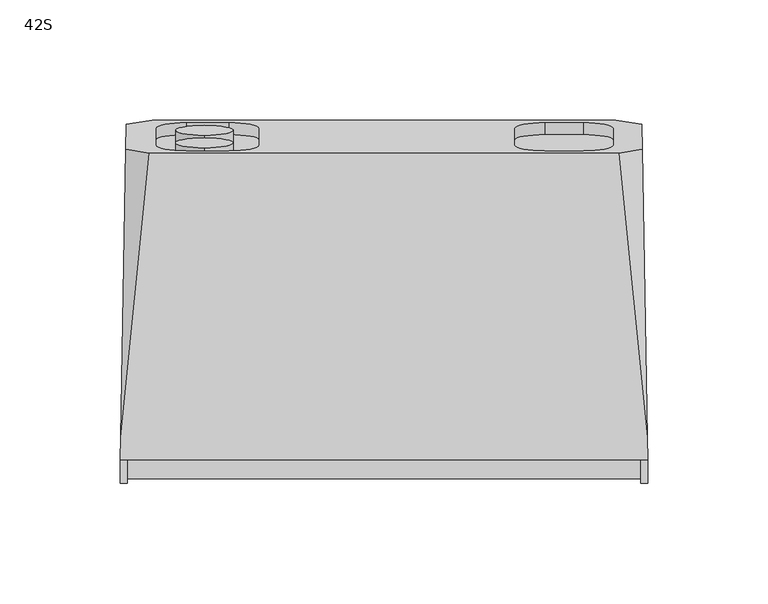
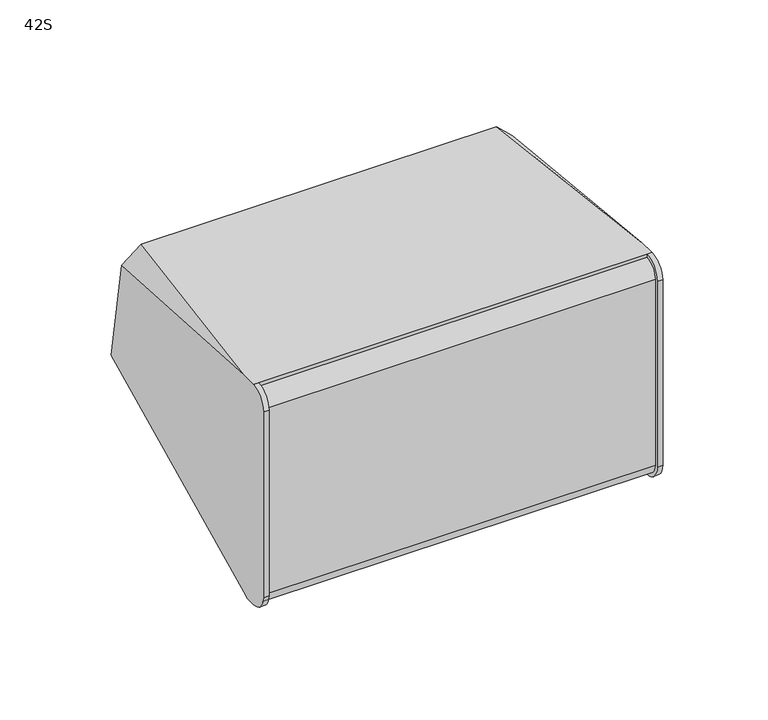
"""IFC4 building model written with IfcOpenShell, lengths in millimetres: proxy geometry, d&b xS-Series 42S Point Source : 42S."""

from ifc_helpers import new_model, si_unit, point, frame, frame_2d, origin, place, context, project, spatial, polyline, circle_curve, ellipse_curve, trimmed, segment, composite_curve, outline, extrude, source, transform, mapped, element, save
from ifc_brep_helpers import plane_surface, cylinder_surface, revolved_surface, advanced_brep


def proxy_42s_98b05bd8(model_context):
    return source(origin(), model_context, "Body", "SolidModel", [
        advanced_brep(
        [(107.0, -66.0, 64.0), (-107.0, -66.0, 64.0), (-107.0, -66.0, 62.0435242), (107.0, -66.0, 62.0435242), (-107.0, -73.9650952, 54.078429), (107.0, -73.9650952, 54.078429), (-107.0, -73.9650952, -54.0), (107.0, -73.9650952, -54.0), (-107.0, -65.9650952, -62.0), (107.0, -65.9650952, -62.0), (-107.0, -65.9650952, -64.0), (107.0, -65.9650952, -64.0), (-109.8273531, -65.9650952, -64.0), (-109.7253263, -60.0349048, -64.0), (109.7253263, -60.0349048, -64.0), (109.8273531, -65.9650952, -64.0), (109.8279536, -66.0, 64.0), (109.6679034, -56.6972655, 64.0), (97.8946622, 61.6262346, 64.0), (-97.8946622, 61.6262346, 64.0), (-109.6679034, -56.6972655, 64.0), (-109.8279536, -66.0, 64.0), (-96.5142171, 75.4999923, -14.6819894), (96.5142171, 75.4999923, -14.6819894), (109.6679034, -56.6972655, -62.7855103), (-109.6679034, -56.6972655, -62.7855103), (107.602215, 63.3685056, 54.1190905), (-107.602215, 63.3685056, 54.1190905), (-107.4240938, 73.7215924, -4.5961827), (107.4240938, 73.7215924, -4.5961827), (109.9986507, -75.921571, 54.078429), (109.9993995, -75.9650952, -54.0), (-109.9993995, -75.9650952, -54.0), (-109.9993995, -75.9650952, 54.078429), (107.0, -75.9650952, -54.0), (107.0, -75.9650952, 54.078429), (95.447753, 64.9457885, 45.1738745), (82.947753, 62.7751863, 57.4839714), (67.052247, 62.7751863, 57.4839714), (54.552247, 64.9457885, 45.1738745), (54.552247, 72.167034, 4.2201563), (67.052247, 74.3376362, -8.0899406), (82.947753, 74.3376362, -8.0899406), (95.447753, 72.167034, 4.2201563), (-52.1, 64.9457885, 45.1738745), (-64.6, 62.7751863, 57.4839714), (-82.4, 62.7751863, 57.4839714), (-94.9, 64.9457885, 45.1738745), (-94.9, 72.167034, 4.2201563), (-82.4, 74.3376362, -8.0899406), (-64.6, 74.3376362, -8.0899406), (-52.1, 72.167034, 4.2201563), (95.447753, 60.0217497, 44.3056336), (95.447753, 67.2429952, 3.3519154), (82.947753, 69.4135974, -8.9581815), (67.052247, 69.4135974, -8.9581815), (54.552247, 67.2429952, 3.3519154), (54.552247, 60.0217497, 44.3056336), (67.052247, 57.8511475, 56.6157306), (82.947753, 57.8511475, 56.6157306), (-52.1, 60.0217497, 44.3056336), (-52.1, 67.2429952, 3.3519154), (-64.6, 69.4135974, -8.9581815), (-82.4, 69.4135974, -8.9581815), (-94.9, 67.2429952, 3.3519154), (-94.9, 60.0217497, 44.3056336), (-82.4, 57.8511475, 56.6157306), (-64.6, 57.8511475, 56.6157306), (-107.0, -75.921571, 54.078429), (-107.0, -75.9650952, -54.0)],
        [
            (0, 1),
            (1, 2),
            (2, 3),
            (3, 0),
            (2, 4, circle_curve(frame((-107.0, -66.0, 54.078429), z_axis=(1.0, 0.0, 0.0), x_axis=(0.0, 0.0, 1.0)), 7.9650952)),
            (4, 5),
            (5, 3, circle_curve(frame((107.0, -66.0, 54.078429), z_axis=(-1.0, 0.0, 0.0), x_axis=(0.0, 0.0, 1.0)), 7.9650952)),
            (4, 6),
            (6, 7),
            (7, 5),
            (6, 8, circle_curve(frame((-107.0, -65.9650952, -54.0), z_axis=(1.0, 0.0, 0.0), x_axis=(0.0, 0.0, 1.0)), 8.0)),
            (8, 9),
            (9, 7, circle_curve(frame((107.0, -65.9650952, -54.0), z_axis=(-1.0, 0.0, 0.0), x_axis=(0.0, 0.0, 1.0)), 8.0)),
            (8, 10),
            (10, 11),
            (11, 9),
            (10, 12),
            (12, 13),
            (13, 14),
            (14, 15),
            (15, 11),
            (0, 16),
            (16, 17),
            (17, 18),
            (18, 19),
            (19, 20),
            (20, 21),
            (21, 1),
            (22, 23),
            (23, 24),
            (24, 14),
            (13, 25),
            (25, 22),
            (26, 18),
            (17, 26),
            (19, 27),
            (27, 20),
            (28, 22),
            (25, 28),
            (23, 29),
            (29, 24),
            (29, 26),
            (16, 30, ellipse_curve(frame((109.8279536, -66.0, 54.078429), z_axis=(0.9998520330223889, 0.017202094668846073, 0.0), x_axis=(0.01720209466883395, -0.999852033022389, 0.0)), 9.9230392, 9.921571)),
            (30, 31),
            (31, 15, ellipse_curve(frame((109.8273531, -65.9650952, -54.0), z_axis=(0.9998520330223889, 0.017202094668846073, 0.0), x_axis=(0.01720209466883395, -0.999852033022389, 0.0)), 10.0014799, 10.0)),
            (12, 32, ellipse_curve(frame((-109.8273531, -65.9650952, -54.0), z_axis=(-0.999852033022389, 0.017202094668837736, 0.0), x_axis=(0.017202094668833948, 0.999852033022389, 0.0)), 10.0014799, 10.0)),
            (32, 33),
            (33, 21, ellipse_curve(frame((-109.8279536, -66.0, 54.078429), z_axis=(-0.999852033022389, 0.017202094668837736, 0.0), x_axis=(0.017202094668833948, 0.999852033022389, 0.0)), 9.9230392, 9.921571)),
            (27, 28),
            (11, 34, circle_curve(frame((107.0, -65.9650952, -54.0), z_axis=(-1.0, 0.0, 0.0), x_axis=(0.0, 0.0, 1.0)), 10.0)),
            (34, 35),
            (35, 0, circle_curve(frame((107.0, -66.0, 54.078429), z_axis=(-1.0, 0.0, 0.0), x_axis=(0.0, 0.0, 1.0)), 9.921571)),
            (35, 30),
            (34, 31),
            (36, 37, circle_curve(frame((82.947753, 64.9457885, 45.1738745), z_axis=(0.0, -0.9848077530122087, -0.17364817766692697), x_axis=(0.0, 0.17364817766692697, -0.9848077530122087)), 12.5)),
            (37, 38),
            (38, 39, circle_curve(frame((67.052247, 64.9457885, 45.1738745), z_axis=(0.0, -0.9848077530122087, -0.17364817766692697), x_axis=(0.0, 0.17364817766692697, -0.9848077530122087)), 12.5)),
            (39, 40),
            (40, 41, circle_curve(frame((67.052247, 72.167034, 4.2201563), z_axis=(0.0, -0.9848077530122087, -0.17364817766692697), x_axis=(0.0, 0.17364817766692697, -0.9848077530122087)), 12.5)),
            (41, 42),
            (42, 43, circle_curve(frame((82.947753, 72.167034, 4.2201563), z_axis=(0.0, -0.9848077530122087, -0.17364817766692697), x_axis=(0.0, 0.17364817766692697, -0.9848077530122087)), 12.5)),
            (43, 36),
            (44, 45, circle_curve(frame((-64.6, 64.9457885, 45.1738745), z_axis=(0.0, -0.9848077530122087, -0.17364817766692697), x_axis=(0.0, 0.17364817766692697, -0.9848077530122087)), 12.5)),
            (45, 46),
            (46, 47, circle_curve(frame((-82.4, 64.9457885, 45.1738745), z_axis=(0.0, -0.9848077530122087, -0.17364817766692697), x_axis=(0.0, 0.17364817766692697, -0.9848077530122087)), 12.5)),
            (47, 48),
            (48, 49, circle_curve(frame((-82.4, 72.167034, 4.2201563), z_axis=(0.0, -0.9848077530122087, -0.17364817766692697), x_axis=(0.0, 0.17364817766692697, -0.9848077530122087)), 12.5)),
            (49, 50),
            (50, 51, circle_curve(frame((-64.6, 72.167034, 4.2201563), z_axis=(0.0, -0.9848077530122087, -0.17364817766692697), x_axis=(0.0, 0.17364817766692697, -0.9848077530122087)), 12.5)),
            (51, 44),
            (52, 53),
            (53, 54, circle_curve(frame((82.947753, 67.2429952, 3.3519154), z_axis=(0.0, 0.9848077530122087, 0.17364817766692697), x_axis=(0.0, 0.17364817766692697, -0.9848077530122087)), 12.5)),
            (54, 55),
            (55, 56, circle_curve(frame((67.052247, 67.2429952, 3.3519154), z_axis=(0.0, 0.9848077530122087, 0.17364817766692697), x_axis=(0.0, 0.17364817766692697, -0.9848077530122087)), 12.5)),
            (56, 57),
            (57, 58, circle_curve(frame((67.052247, 60.0217497, 44.3056336), z_axis=(0.0, 0.9848077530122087, 0.17364817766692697), x_axis=(0.0, 0.17364817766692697, -0.9848077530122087)), 12.5)),
            (58, 59),
            (59, 52, circle_curve(frame((82.947753, 60.0217497, 44.3056336), z_axis=(0.0, 0.9848077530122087, 0.17364817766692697), x_axis=(0.0, 0.17364817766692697, -0.9848077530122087)), 12.5)),
            (60, 61),
            (61, 62, circle_curve(frame((-64.6, 67.2429952, 3.3519154), z_axis=(0.0, 0.9848077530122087, 0.17364817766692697), x_axis=(0.0, 0.17364817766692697, -0.9848077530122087)), 12.5)),
            (62, 63),
            (63, 64, circle_curve(frame((-82.4, 67.2429952, 3.3519154), z_axis=(0.0, 0.9848077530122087, 0.17364817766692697), x_axis=(0.0, 0.17364817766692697, -0.9848077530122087)), 12.5)),
            (64, 65),
            (65, 66, circle_curve(frame((-82.4, 60.0217497, 44.3056336), z_axis=(0.0, 0.9848077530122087, 0.17364817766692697), x_axis=(0.0, 0.17364817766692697, -0.9848077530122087)), 12.5)),
            (66, 67),
            (67, 60, circle_curve(frame((-64.6, 60.0217497, 44.3056336), z_axis=(0.0, 0.9848077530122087, 0.17364817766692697), x_axis=(0.0, 0.17364817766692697, -0.9848077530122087)), 12.5)),
            (1, 68, circle_curve(frame((-107.0, -66.0, 54.078429), z_axis=(1.0, 0.0, 0.0), x_axis=(0.0, 0.0, 1.0)), 9.921571)),
            (68, 69),
            (69, 10, circle_curve(frame((-107.0, -65.9650952, -54.0), z_axis=(1.0, 0.0, 0.0), x_axis=(0.0, 0.0, 1.0)), 10.0)),
            (33, 68),
            (32, 69),
            (59, 37),
            (36, 52),
            (58, 38),
            (57, 39),
            (56, 40),
            (55, 41),
            (54, 42),
            (53, 43),
            (67, 45),
            (44, 60),
            (66, 46),
            (65, 47),
            (64, 48),
            (63, 49),
            (62, 50),
            (61, 51),
        ],
        [
            plane_surface(frame((107.0, -66.0, 64.0), z_axis=(0.0, -1.0, 0.0), x_axis=(-1.0, 0.0, 0.0))),
            cylinder_surface(frame((-107.0, -66.0, 54.078429), z_axis=(1.0, 0.0, 0.0), x_axis=(0.0, 0.0, 1.0)), 7.9650952),
            plane_surface(frame((107.0, -73.9650952, 54.078429), z_axis=(0.0, -1.0, 0.0), x_axis=(-1.0, 0.0, 0.0))),
            cylinder_surface(frame((-107.0, -65.9650952, -54.0), z_axis=(1.0, 0.0, 0.0), x_axis=(0.0, 0.0, 1.0)), 8.0),
            plane_surface(frame((107.0, -65.9650952, -62.0), z_axis=(0.0, -1.0, 0.0), x_axis=(-1.0, 0.0, 0.0))),
            plane_surface(frame((107.0, -65.9650952, -64.0), z_axis=(0.0, 0.0, -1.0), x_axis=(-1.0, 0.0, 0.0))),
            plane_surface(frame((107.0, -60.0349048, 64.0), z_axis=(0.0, 0.0, 1.0), x_axis=(-1.0, 0.0, 0.0))),
            plane_surface(frame((0.0, 76.0, -14.5000481), z_axis=(0.0, 0.34194264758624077, -0.939720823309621), x_axis=(1.0, 0.0, 0.0))),
            plane_surface(frame((103.232233, 76.0, 57.232233), z_axis=(0.705363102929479, 0.07018394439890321, 0.7053631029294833), x_axis=(-0.7071067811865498, 0.0, 0.7071067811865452))),
            plane_surface(frame((-103.232233, 76.0, 57.232233), z_axis=(-0.7053631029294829, 0.07018394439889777, 0.70536310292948), x_axis=(-0.7071067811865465, 0.0, -0.7071067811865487))),
            plane_surface(frame((-103.232233, 76.0, -7.7322812), z_axis=(-0.6719558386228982, 0.3113690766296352, -0.671955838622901), x_axis=(0.7071067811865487, 0.0, -0.7071067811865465))),
            plane_surface(frame((103.232233, 76.0, -7.7322812), z_axis=(0.6719558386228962, 0.31136907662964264, -0.6719558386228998), x_axis=(0.7071067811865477, 0.0, 0.7071067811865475))),
            plane_surface(frame((110.3665166, -97.3033587, -100.0), z_axis=(0.9998520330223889, 0.017202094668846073, 0.0), x_axis=(0.0, 0.0, 1.0))),
            plane_surface(frame((-107.2474477, 83.9889493, -100.0), z_axis=(-0.999852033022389, 0.017202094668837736, 0.0), x_axis=(0.0, 0.0, 1.0))),
            plane_surface(frame((107.0, -66.0, 64.0), z_axis=(-1.0, 0.0, 0.0), x_axis=(0.0, 1.0, 0.0))),
            cylinder_surface(frame((107.0, -66.0, 54.078429), z_axis=(1.0, 0.0, 0.0), x_axis=(0.0, 0.0, 1.0)), 9.921571),
            plane_surface(frame((112.6426388, -75.9650952, 54.078429), z_axis=(0.0, -1.0, 0.0), x_axis=(-1.0, 0.0, 0.0))),
            cylinder_surface(frame((107.0, -65.9650952, -54.0), z_axis=(1.0, 0.0, 0.0), x_axis=(0.0, 0.0, 1.0)), 10.0),
            plane_surface(frame((250.0, 58.5830883, 81.2585403), z_axis=(0.0, 0.9848077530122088, 0.17364817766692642), x_axis=(-1.0, 0.0, 0.0))),
            plane_surface(frame((82.947753, 62.192352, 31.9955367), z_axis=(0.0, 0.9848077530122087, 0.17364817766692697), x_axis=(1.0, 0.0, 0.0))),
            plane_surface(frame((-107.0, -66.0, 64.0), z_axis=(1.0, 0.0, 0.0), x_axis=(0.0, -1.0, 0.0))),
            cylinder_surface(frame((-113.0, -66.0, 54.078429), z_axis=(1.0, 0.0, 0.0), x_axis=(0.0, 0.0, 1.0)), 9.921571),
            plane_surface(frame((-107.0, -75.9650952, 54.078429), z_axis=(0.0, -1.0, 0.0), x_axis=(-1.0, 0.0, 0.0))),
            cylinder_surface(frame((-113.0, -65.9650952, -54.0), z_axis=(1.0, 0.0, 0.0), x_axis=(0.0, 0.0, 1.0)), 10.0),
            revolved_surface(polyline([(82.947753, 62.19235191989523, 31.995536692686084), (82.947753, 67.11639073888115, 32.863777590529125)]), (82.947753, 64.9457885, 45.1738745), (0.0, -0.9848077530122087, -0.17364817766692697)),
            plane_surface(frame((82.947753, 57.8511475, 56.6157306), z_axis=(0.0, 0.17364817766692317, -0.9848077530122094), x_axis=(0.0, 0.9848077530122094, 0.17364817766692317))),
            revolved_surface(polyline([(67.052247, 62.19235191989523, 31.995536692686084), (67.052247, 67.11639073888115, 32.863777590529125)]), (67.052247, 64.9457885, 45.1738745), (0.0, -0.9848077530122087, -0.17364817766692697)),
            plane_surface(frame((54.552247, 60.0217497, 44.3056336), z_axis=(1.0, 0.0, 0.0), x_axis=(0.0, 0.9848077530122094, 0.17364817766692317))),
            revolved_surface(polyline([(67.052247, 69.41359740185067, -8.958181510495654), (67.052247, 74.33763622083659, -8.089940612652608)]), (67.052247, 72.167034, 4.2201563), (0.0, -0.9848077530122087, -0.17364817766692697)),
            plane_surface(frame((67.052247, 69.4135974, -8.9581815), z_axis=(0.0, -0.17364817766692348, 0.9848077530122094), x_axis=(0.0, 0.9848077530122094, 0.17364817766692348))),
            revolved_surface(polyline([(82.947753, 69.41359740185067, -8.958181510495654), (82.947753, 74.33763622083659, -8.089940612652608)]), (82.947753, 72.167034, 4.2201563), (0.0, -0.9848077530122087, -0.17364817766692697)),
            plane_surface(frame((95.447753, 67.2429952, 3.3519154), z_axis=(-1.0, 0.0, 0.0), x_axis=(0.0, 0.9848077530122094, 0.17364817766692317))),
            revolved_surface(polyline([(-64.6, 62.19235191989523, 31.995536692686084), (-64.6, 67.11639073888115, 32.863777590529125)]), (-64.6, 64.9457885, 45.1738745), (0.0, -0.9848077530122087, -0.17364817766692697)),
            plane_surface(frame((-64.6, 57.8511475, 56.6157306), z_axis=(0.0, 0.17364817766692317, -0.9848077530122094), x_axis=(0.0, 0.9848077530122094, 0.17364817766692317))),
            revolved_surface(polyline([(-82.4, 62.19235191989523, 31.995536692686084), (-82.4, 67.11639073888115, 32.863777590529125)]), (-82.4, 64.9457885, 45.1738745), (0.0, -0.9848077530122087, -0.17364817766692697)),
            plane_surface(frame((-94.9, 60.0217497, 44.3056336), z_axis=(1.0, 0.0, 0.0), x_axis=(0.0, 0.9848077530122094, 0.17364817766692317))),
            revolved_surface(polyline([(-82.4, 69.41359740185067, -8.958181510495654), (-82.4, 74.33763622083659, -8.089940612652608)]), (-82.4, 72.167034, 4.2201563), (0.0, -0.9848077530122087, -0.17364817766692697)),
            plane_surface(frame((-82.4, 69.4135974, -8.9581815), z_axis=(0.0, -0.17364817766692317, 0.9848077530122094), x_axis=(0.0, 0.9848077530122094, 0.17364817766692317))),
            revolved_surface(polyline([(-64.6, 69.41359740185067, -8.958181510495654), (-64.6, 74.33763622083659, -8.089940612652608)]), (-64.6, 72.167034, 4.2201563), (0.0, -0.9848077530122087, -0.17364817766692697)),
            plane_surface(frame((-52.1, 67.2429952, 3.3519154), z_axis=(-1.0, 0.0, 0.0), x_axis=(0.0, 0.9848077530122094, 0.17364817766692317))),
        ],
        [
            (0, [[1, 2, 3, 4]]),
            (1, [[-3, 5, 6, 7]]),
            (2, [[-6, 8, 9, 10]]),
            (3, [[-9, 11, 12, 13]]),
            (4, [[-12, 14, 15, 16]]),
            (5, [[-15, 17, 18, 19, 20, 21]]),
            (6, [[-1, 22, 23, 24, 25, 26, 27, 28]]),
            (7, [[29, 30, 31, -19, 32, 33]]),
            (8, [[34, -24, 35]]),
            (9, [[-26, 36, 37]]),
            (10, [[38, -33, 39]]),
            (11, [[-30, 40, 41]]),
            (12, [[-20, -31, -41, 42, -35, -23, 43, 44, 45]]),
            (13, [[-18, 46, 47, 48, -27, -37, 49, -39, -32]]),
            (14, [[50, 51, 52, -4, -7, -10, -13, -16]]),
            (15, [[-52, 53, -43, -22]]),
            (16, [[-51, 54, -44, -53]]),
            (17, [[-50, -21, -45, -54]]),
            (18, [[-25, -34, -42, -40, -29, -38, -49, -36], [55, 56, 57, 58, 59, 60, 61, 62], [63, 64, 65, 66, 67, 68, 69, 70]]),
            (19, [[71, 72, 73, 74, 75, 76, 77, 78]]),
            (19, [[79, 80, 81, 82, 83, 84, 85, 86]]),
            (20, [[87, 88, 89, -14, -11, -8, -5, -2]]),
            (21, [[-87, -28, -48, 90]]),
            (22, [[-88, -90, -47, 91]]),
            (23, [[-89, -91, -46, -17]]),
            (24, [[-78, 92, -55, 93]]),
            (25, [[-77, 94, -56, -92]]),
            (26, [[-76, 95, -57, -94]]),
            (27, [[-75, 96, -58, -95]]),
            (28, [[-74, 97, -59, -96]]),
            (29, [[-73, 98, -60, -97]]),
            (30, [[-72, 99, -61, -98]]),
            (31, [[-71, -93, -62, -99]]),
            (32, [[-86, 100, -63, 101]]),
            (33, [[-85, 102, -64, -100]]),
            (34, [[-84, 103, -65, -102]]),
            (35, [[-83, 104, -66, -103]]),
            (36, [[-82, 105, -67, -104]]),
            (37, [[-81, 106, -68, -105]]),
            (38, [[-80, 107, -69, -106]]),
            (39, [[-79, -101, -70, -107]]),
        ],
    ),
        extrude(outline(composite_curve([segment(trimmed(circle_curve(frame_2d((0.0, -12.0)), 12.0), [point((0.0, -24.0))], [point((0.0, 0.0))], False, "CARTESIAN"), True, "CONTINUOUS"), segment(trimmed(circle_curve(frame_2d((0.0, -12.0)), 12.0), [point((0.0, 0.0))], [point((0.0, -24.0))], False, "CARTESIAN"), True, "CONTINUOUS")], self_intersect=False)), frame((-74.8471384, 58.9509918, 50.3782035), z_axis=(0.0, 0.9848077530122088, 0.17364817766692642), x_axis=(-1.0, 0.0, 0.0)), (0.0, 0.0, 1.0), 5.0),
        extrude(outline(composite_curve([segment(trimmed(circle_curve(frame_2d((0.0, -42.0)), 12.0), [point((0.0, -54.0))], [point((0.0, -30.0))], False, "CARTESIAN"), True, "CONTINUOUS"), segment(trimmed(circle_curve(frame_2d((0.0, -42.0)), 12.0), [point((0.0, -30.0))], [point((0.0, -54.0))], False, "CARTESIAN"), True, "CONTINUOUS")], self_intersect=False)), frame((-74.8471384, 58.9509918, 50.3782035), z_axis=(0.0, 0.9848077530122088, 0.17364817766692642), x_axis=(-1.0, 0.0, 0.0)), (0.0, 0.0, 1.0), 5.0),
    ])


if __name__ == "__main__":
    model = new_model("IFC4")
    model_context = context("Model", 3, world=origin())
    ifc_project = project(units=[si_unit("LENGTHUNIT", "METRE", prefix="MILLI")], contexts=[model_context])
    site = spatial("IfcSite", under=ifc_project)
    building = spatial("IfcBuilding", under=site)
    placement = place(None, origin())
    proxy_42s_shape = proxy_42s_98b05bd8(model_context)
    element("IfcBuildingElementProxy", 1, Name="d&b xS-Series 42S Point Source : 42S", ObjectType="d&b xS-Series 42S Point Source : 42S", at=placement, inside=building, context=model_context, shape_type="MappedRepresentation", body=[
        mapped(proxy_42s_shape, transform((0.0, 0.0, 0.0), x_axis=(1.0, 0.0, 0.0), y_axis=(0.0, 1.0, 0.0), z_axis=(0.0, 0.0, 1.0))),
    ])
    save(model, "model.ifc")
